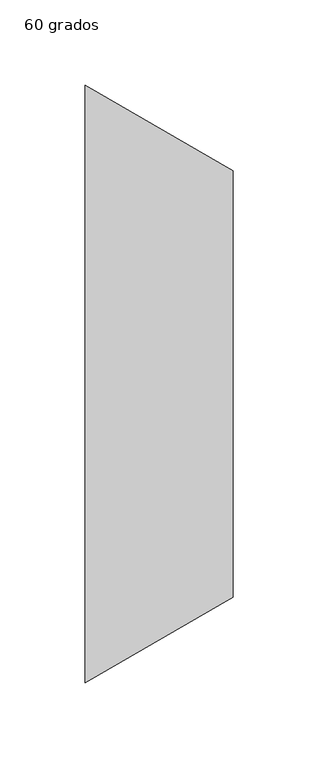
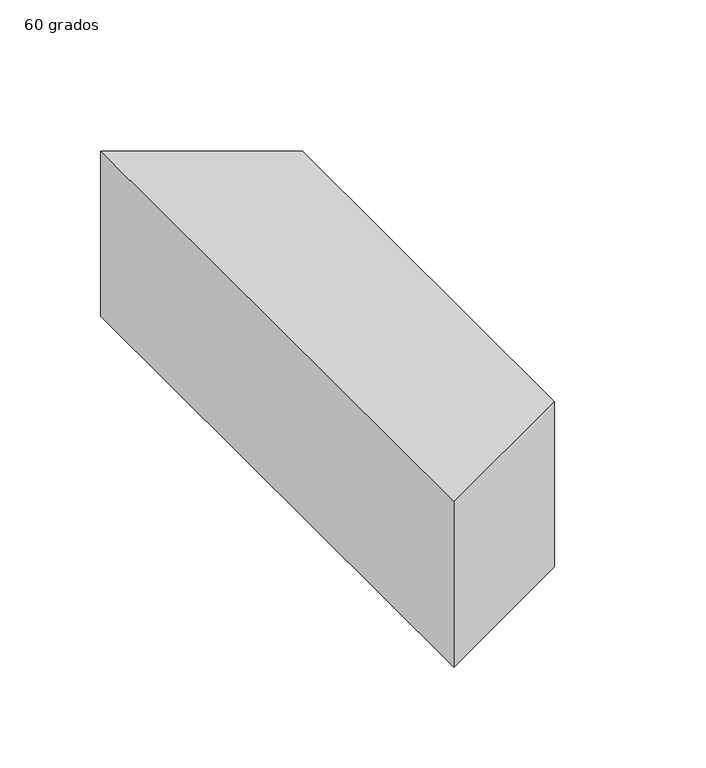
"""IFC4 building model written with IfcOpenShell, lengths in millimetres: duct fitting geometry, M_Transición rectangular - Ángulo : 60 grados."""

from ifc_helpers import new_model, si_unit, frame, origin, place, context, project, spatial, polyline, outline, extrude, source, transform, mapped, element, save


def duct_fitting_60_grados_7fba248a(model_context):
    return source(origin(), model_context, "Body", "SweptSolid", [
        extrude(outline(polyline([(0.0, -175.0), (0.0, 175.0), (86.6025404, 125.0), (86.6025404, -125.0), (0.0, -175.0)])), frame((0.0, 0.0, -50.0), z_axis=(0.0, 0.0, 1.0), x_axis=(1.0, 0.0, 0.0)), (0.0, 0.0, 1.0), 100.0),
    ])


if __name__ == "__main__":
    model = new_model("IFC4")
    model_context = context("Model", 3, world=origin())
    ifc_project = project(units=[si_unit("LENGTHUNIT", "METRE", prefix="MILLI")], contexts=[model_context])
    site = spatial("IfcSite", under=ifc_project)
    building = spatial("IfcBuilding", under=site)
    placement = place(None, origin())
    duct_fitting_60_grados_shape = duct_fitting_60_grados_7fba248a(model_context)
    element("IfcDuctFitting", 1, ObjectType="M_Transición rectangular - Ángulo : 60 grados", at=placement, inside=building, context=model_context, shape_type="MappedRepresentation", body=[
        mapped(duct_fitting_60_grados_shape, transform((0.0, 0.0, 0.0), x_axis=(1.0, 0.0, 0.0), y_axis=(0.0, 1.0, 0.0), z_axis=(0.0, 0.0, 1.0))),
    ])
    save(model, "model.ifc")
